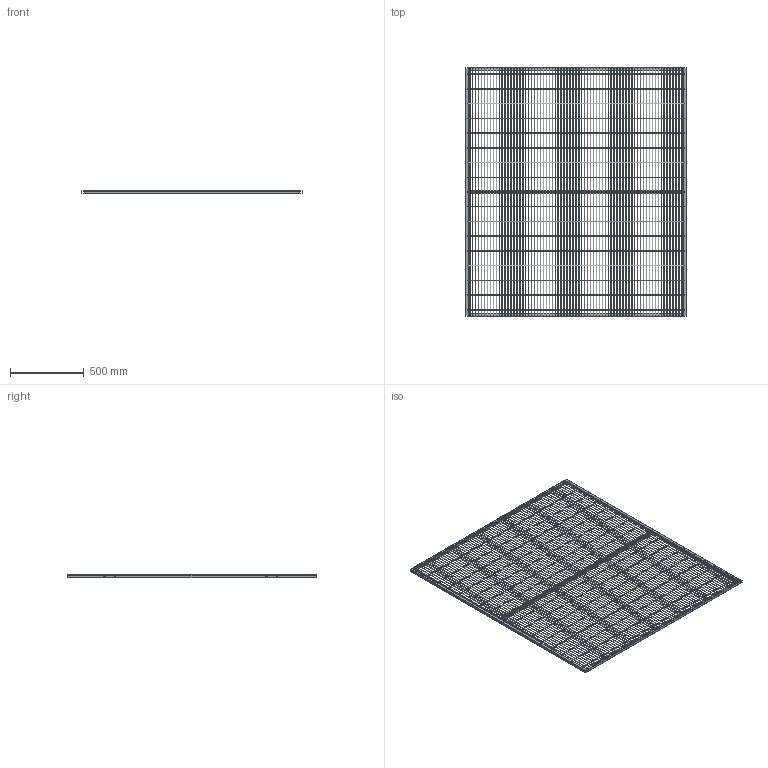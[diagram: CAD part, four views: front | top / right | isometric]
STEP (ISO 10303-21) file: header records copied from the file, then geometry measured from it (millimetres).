
FILE_DESCRIPTION (( 'STEP AP203' ), '1' );
FILE_NAME ('Door Panel 1500mm.STEP', '2023-11-28T22:36:37', ( '' ), ( '' ), 'SwSTEP 2.0', 'SolidWorks 2024', '' );
FILE_SCHEMA (( 'CONFIG_CONTROL_DESIGN' ));
Length unit declared in the file: millimetre
Products named in the file (1): Door Panel 1500mm
Bounding box: 1500 x 1688 x 26 mm (x, y, z)
Volume: 1878447.5 mm3; surface area: 2507550 mm2
Topology: 95 solids, 95 shells, 482 faces, 876 edges, 584 vertices
Faces by surface type: cylinder 252, plane 230
Entity records: 12017 total; most frequent: DIRECTION 2346, CARTESIAN_POINT 1943, ORIENTED_EDGE 1752, AXIS2_PLACEMENT_3D 987, EDGE_CURVE 876, VERTEX_POINT 584, EDGE_LOOP 524, CIRCLE 504
